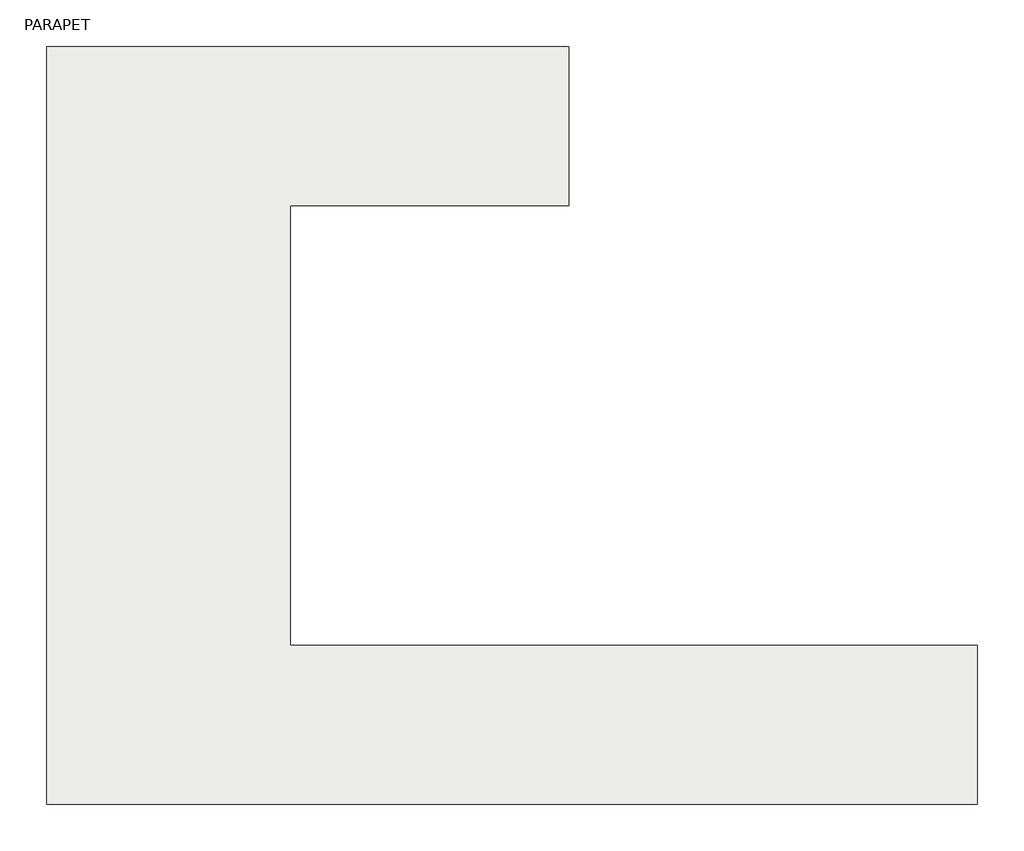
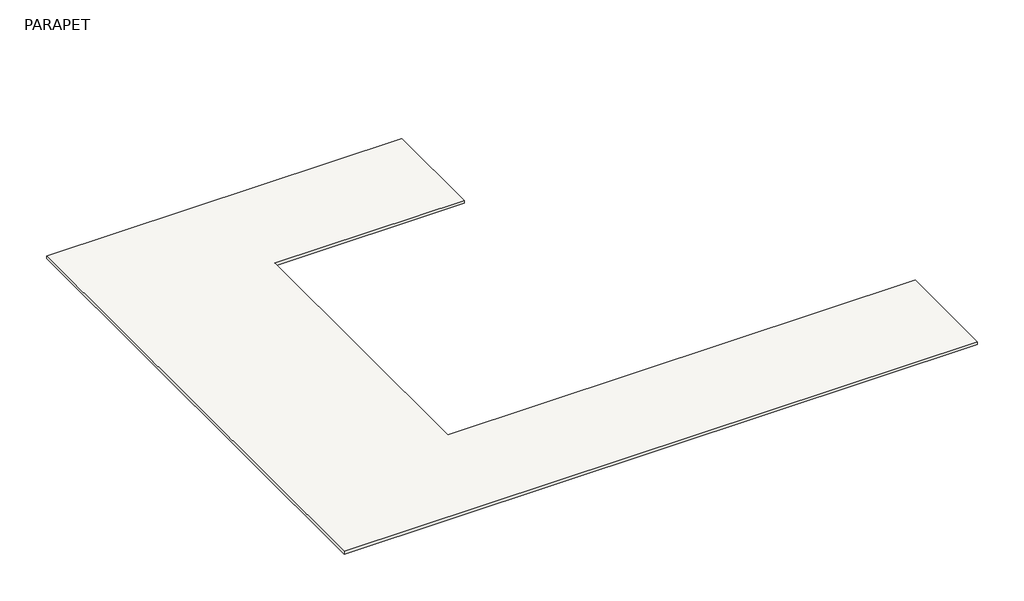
# One storey: 1 roof.
"""IFC4 building model written with IfcOpenShell, lengths in millimetres."""

from ifc_helpers import new_model, si_unit, frame, origin, place, context, project, spatial, polyline, outline, extrude, element, save

model = new_model("IFC4")

# Units and contexts
model_context = context("Model", 3, world=origin())
ifc_project = project(units=[si_unit("LENGTHUNIT", "METRE", prefix="MILLI")], contexts=[model_context])

# Site, building, storey
site = spatial("IfcSite", under=ifc_project)
building = spatial("IfcBuilding", under=site)
storey = spatial("IfcBuildingStorey", under=building, Name="PARAPET", Elevation=12600.0)

# Roof
placement = place(None, origin())
element("IfcRoof", 1, ObjectType="Generic Roof - 300mm", at=placement, inside=storey, context=model_context, shape_type="SweptSolid", body=[
    extrude(outline(polyline([(-10026.8386635, 30818.5799804), (27411.8999097, 30818.5799804), (27411.8999097, 19414.8392059), (7447.5010724, 19414.8392059), (7447.5010724, -12132.3615692), (56699.1173382, -12132.3615692), (56699.1173382, -23510.7006057), (-10026.8386635, -23510.7006057), (-10026.8386635, 30818.5799804)])), frame((0.0, 0.0, 11300.0), z_axis=(0.0, 0.0, 1.0), x_axis=(1.0, 0.0, 0.0)), (0.0, 0.0, 1.0), 300.0),
])

save(model, "model.ifc")
